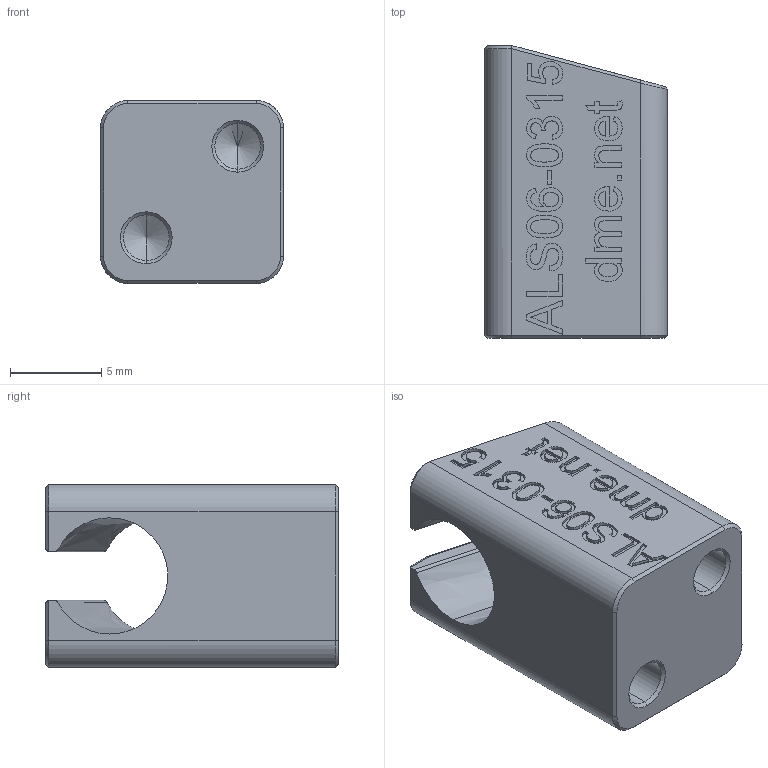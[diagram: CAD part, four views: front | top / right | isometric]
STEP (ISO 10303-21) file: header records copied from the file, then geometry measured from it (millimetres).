
FILE_DESCRIPTION (( 'STEP AP203' ), '1' );
FILE_NAME ('ALS06-0315.STEP', '2021-01-08T21:49:14', ( '' ), ( '' ), 'SwSTEP 2.0', 'SolidWorks 2020', '' );
FILE_SCHEMA (( 'CONFIG_CONTROL_DESIGN' ));
Length unit declared in the file: millimetre
Products named in the file (1): ALS06-0315
Bounding box: 10 x 16 x 10 mm (x, y, z)
Volume: 1077.3 mm3; surface area: 954.8 mm2
Topology: 1 solids, 1 shells, 284 faces, 748 edges, 488 vertices
Faces by surface type: plane 130, bspline 126, cone 14, cylinder 14
Entity records: 15439 total; most frequent: CARTESIAN_POINT 9269, ORIENTED_EDGE 1488, DIRECTION 818, EDGE_CURVE 744, VERTEX_POINT 488, VECTOR 448, LINE 448, EDGE_LOOP 310
